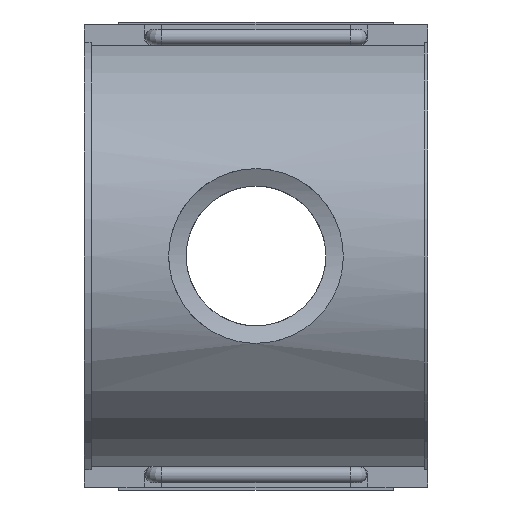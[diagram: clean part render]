
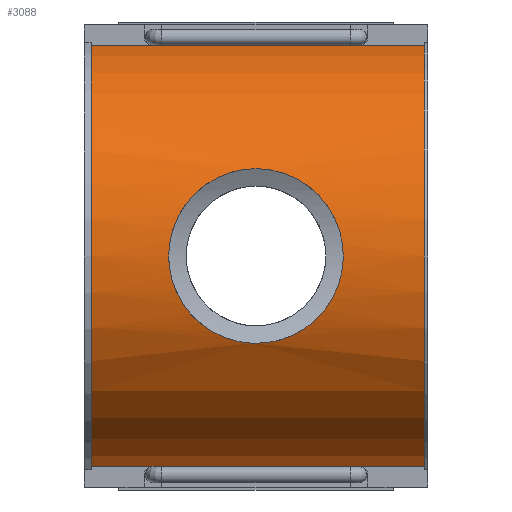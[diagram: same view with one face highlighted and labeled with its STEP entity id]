
A CAD part, front view. The second image highlights one B-rep face of the part: STEP entity #3088.
In plain terms, the highlighted cylindrical face has radius 73.858 mm (diameter 147.716 mm), a partial arc.
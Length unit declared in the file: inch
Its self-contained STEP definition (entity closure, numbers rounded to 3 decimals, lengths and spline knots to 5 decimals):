
#59=B_SPLINE_CURVE_WITH_KNOTS('',3,(#5292,#5293,#5294,#5295,#5296,#5297,
#5298,#5299,#5300,#5301,#5302,#5303,#5304,#5305,#5306,#5307,#5308,#5309,
#5310,#5311,#5312,#5313,#5314,#5315,#5316,#5317,#5318,#5319,#5320,#5321,
#5322,#5323,#5324,#5325,#5326,#5327,#5328,#5329,#5330,#5331,#5332,#5333,
#5334,#5335,#5336,#5337,#5338,#5339,#5340,#5341),.UNSPECIFIED.,.F.,.F.,
(4,2,2,2,2,2,2,2,2,2,2,2,2,2,2,2,2,2,2,2,2,2,2,2,4),(0.,0.57358,
1.14716,1.72074,2.29431,2.86727,3.44022,
4.01318,4.58613,5.15908,5.73204,6.30499,
6.87794,7.45152,8.0251,8.59868,9.17226,
9.74584,10.31942,10.89299,11.46657,12.03953,
12.61248,13.18543,13.75839),.UNSPECIFIED.);
#60=B_SPLINE_CURVE_WITH_KNOTS('',3,(#5342,#5343,#5344,#5345,#5346,#5347,
#5348,#5349,#5350,#5351,#5352,#5353,#5354,#5355,#5356,#5357,#5358,#5359),
 .UNSPECIFIED.,.F.,.F.,(4,2,2,2,2,2,2,2,4),(13.75839,14.33134,
14.9043,15.47725,16.0502,16.62378,17.19736,
17.77094,18.34452),.UNSPECIFIED.);
#78=FACE_BOUND('',#558,.T.);
#236=CYLINDRICAL_SURFACE('',#3372,2.9078);
#366=FACE_OUTER_BOUND('',#557,.T.);
#557=EDGE_LOOP('',(#2694,#2695,#2696,#2697,#2698,#2699,#2700,#2701));
#558=EDGE_LOOP('',(#2702,#2703));
#805=LINE('',#5453,#1108);
#806=LINE('',#5455,#1109);
#822=LINE('',#5491,#1125);
#823=LINE('',#5494,#1126);
#824=LINE('',#5496,#1127);
#825=LINE('',#5497,#1128);
#1108=VECTOR('',#4047,0.3937);
#1109=VECTOR('',#4050,0.3937);
#1125=VECTOR('',#4082,0.3937);
#1126=VECTOR('',#4085,0.3937);
#1127=VECTOR('',#4086,0.3937);
#1128=VECTOR('',#4087,0.3937);
#1290=CIRCLE('',#3341,2.9078);
#1293=CIRCLE('',#3346,2.9078);
#1497=VERTEX_POINT('',#5289);
#1498=VERTEX_POINT('',#5291);
#1503=VERTEX_POINT('',#5370);
#1504=VERTEX_POINT('',#5371);
#1509=VERTEX_POINT('',#5385);
#1510=VERTEX_POINT('',#5386);
#1519=VERTEX_POINT('',#5409);
#1528=VERTEX_POINT('',#5433);
#1545=VERTEX_POINT('',#5493);
#1546=VERTEX_POINT('',#5495);
#1878=EDGE_CURVE('',#1498,#1497,#59,.T.);
#1879=EDGE_CURVE('',#1497,#1498,#60,.T.);
#1884=EDGE_CURVE('',#1503,#1504,#1290,.T.);
#1891=EDGE_CURVE('',#1509,#1510,#1293,.T.);
#1925=EDGE_CURVE('',#1528,#1510,#805,.T.);
#1926=EDGE_CURVE('',#1503,#1519,#806,.T.);
#1944=EDGE_CURVE('',#1519,#1528,#822,.T.);
#1945=EDGE_CURVE('',#1504,#1545,#823,.T.);
#1946=EDGE_CURVE('',#1545,#1546,#824,.T.);
#1947=EDGE_CURVE('',#1546,#1509,#825,.T.);
#2694=ORIENTED_EDGE('',*,*,#1884,.T.);
#2695=ORIENTED_EDGE('',*,*,#1945,.T.);
#2696=ORIENTED_EDGE('',*,*,#1946,.T.);
#2697=ORIENTED_EDGE('',*,*,#1947,.T.);
#2698=ORIENTED_EDGE('',*,*,#1891,.T.);
#2699=ORIENTED_EDGE('',*,*,#1925,.F.);
#2700=ORIENTED_EDGE('',*,*,#1944,.F.);
#2701=ORIENTED_EDGE('',*,*,#1926,.F.);
#2702=ORIENTED_EDGE('',*,*,#1878,.T.);
#2703=ORIENTED_EDGE('',*,*,#1879,.T.);
#3088=ADVANCED_FACE('',(#366,#78),#236,.T.);
#3341=AXIS2_PLACEMENT_3D('',#5372,#3972,#3973);
#3346=AXIS2_PLACEMENT_3D('',#5387,#3986,#3987);
#3372=AXIS2_PLACEMENT_3D('',#5492,#4083,#4084);
#3972=DIRECTION('center_axis',(-1.,0.,0.));
#3973=DIRECTION('ref_axis',(0.,-0.205,0.979));
#3986=DIRECTION('center_axis',(1.,0.,0.));
#3987=DIRECTION('ref_axis',(0.,-0.205,0.979));
#4047=DIRECTION('',(-1.,0.,0.));
#4050=DIRECTION('',(-1.,0.,0.));
#4082=DIRECTION('',(-1.,0.,0.));
#4083=DIRECTION('center_axis',(-1.,0.,0.));
#4084=DIRECTION('ref_axis',(0.,-0.205,0.979));
#4085=DIRECTION('',(-1.,0.,0.));
#4086=DIRECTION('',(-1.,0.,0.));
#4087=DIRECTION('',(-1.,0.,0.));
#5289=CARTESIAN_POINT('',(-3.50807,-2.9078,0.));
#5291=CARTESIAN_POINT('',(-2.325,-2.65624,1.18307));
#5292=CARTESIAN_POINT('Ctrl Pts',(-2.325,-2.65624,1.18307));
#5293=CARTESIAN_POINT('Ctrl Pts',(-2.24973,-2.65624,1.18307));
#5294=CARTESIAN_POINT('Ctrl Pts',(-2.17221,-2.65953,1.17577));
#5295=CARTESIAN_POINT('Ctrl Pts',(-2.01863,-2.67276,1.14539));
#5296=CARTESIAN_POINT('Ctrl Pts',(-1.94255,-2.68267,1.12232));
#5297=CARTESIAN_POINT('Ctrl Pts',(-1.79713,-2.70724,1.0617));
#5298=CARTESIAN_POINT('Ctrl Pts',(-1.72764,-2.72187,1.02411));
#5299=CARTESIAN_POINT('Ctrl Pts',(-1.59933,-2.75288,0.93758));
#5300=CARTESIAN_POINT('Ctrl Pts',(-1.54051,-2.76922,0.88862));
#5301=CARTESIAN_POINT('Ctrl Pts',(-1.43643,-2.80048,0.78455));
#5302=CARTESIAN_POINT('Ctrl Pts',(-1.38749,-2.81654,0.72575));
#5303=CARTESIAN_POINT('Ctrl Pts',(-1.30093,-2.84652,0.59743));
#5304=CARTESIAN_POINT('Ctrl Pts',(-1.26331,-2.86042,0.5279));
#5305=CARTESIAN_POINT('Ctrl Pts',(-1.20266,-2.88348,0.38239));
#5306=CARTESIAN_POINT('Ctrl Pts',(-1.17958,-2.89265,0.30628));
#5307=CARTESIAN_POINT('Ctrl Pts',(-1.14921,-2.90481,0.15268));
#5308=CARTESIAN_POINT('Ctrl Pts',(-1.14193,-2.9078,0.07519));
#5309=CARTESIAN_POINT('Ctrl Pts',(-1.14193,-2.9078,-0.07519));
#5310=CARTESIAN_POINT('Ctrl Pts',(-1.14921,-2.90481,-0.15268));
#5311=CARTESIAN_POINT('Ctrl Pts',(-1.17958,-2.89265,-0.30628));
#5312=CARTESIAN_POINT('Ctrl Pts',(-1.20266,-2.88348,-0.38239));
#5313=CARTESIAN_POINT('Ctrl Pts',(-1.26331,-2.86042,-0.5279));
#5314=CARTESIAN_POINT('Ctrl Pts',(-1.30093,-2.84652,-0.59743));
#5315=CARTESIAN_POINT('Ctrl Pts',(-1.38749,-2.81654,-0.72575));
#5316=CARTESIAN_POINT('Ctrl Pts',(-1.43643,-2.80048,-0.78455));
#5317=CARTESIAN_POINT('Ctrl Pts',(-1.54051,-2.76922,-0.88862));
#5318=CARTESIAN_POINT('Ctrl Pts',(-1.59933,-2.75288,-0.93758));
#5319=CARTESIAN_POINT('Ctrl Pts',(-1.72764,-2.72187,-1.02411));
#5320=CARTESIAN_POINT('Ctrl Pts',(-1.79713,-2.70724,-1.0617));
#5321=CARTESIAN_POINT('Ctrl Pts',(-1.94255,-2.68267,-1.12232));
#5322=CARTESIAN_POINT('Ctrl Pts',(-2.01863,-2.67276,-1.14539));
#5323=CARTESIAN_POINT('Ctrl Pts',(-2.17221,-2.65953,-1.17577));
#5324=CARTESIAN_POINT('Ctrl Pts',(-2.24973,-2.65624,-1.18307));
#5325=CARTESIAN_POINT('Ctrl Pts',(-2.40027,-2.65624,-1.18307));
#5326=CARTESIAN_POINT('Ctrl Pts',(-2.47779,-2.65953,-1.17577));
#5327=CARTESIAN_POINT('Ctrl Pts',(-2.63137,-2.67276,-1.14539));
#5328=CARTESIAN_POINT('Ctrl Pts',(-2.70745,-2.68267,-1.12232));
#5329=CARTESIAN_POINT('Ctrl Pts',(-2.85287,-2.70724,-1.0617));
#5330=CARTESIAN_POINT('Ctrl Pts',(-2.92236,-2.72187,-1.02411));
#5331=CARTESIAN_POINT('Ctrl Pts',(-3.05067,-2.75288,-0.93758));
#5332=CARTESIAN_POINT('Ctrl Pts',(-3.10949,-2.76922,-0.88862));
#5333=CARTESIAN_POINT('Ctrl Pts',(-3.21357,-2.80048,-0.78455));
#5334=CARTESIAN_POINT('Ctrl Pts',(-3.26251,-2.81654,-0.72575));
#5335=CARTESIAN_POINT('Ctrl Pts',(-3.34907,-2.84652,-0.59743));
#5336=CARTESIAN_POINT('Ctrl Pts',(-3.38669,-2.86042,-0.5279));
#5337=CARTESIAN_POINT('Ctrl Pts',(-3.44734,-2.88348,-0.38239));
#5338=CARTESIAN_POINT('Ctrl Pts',(-3.47042,-2.89265,-0.30628));
#5339=CARTESIAN_POINT('Ctrl Pts',(-3.50079,-2.90481,-0.15268));
#5340=CARTESIAN_POINT('Ctrl Pts',(-3.50807,-2.9078,-0.07519));
#5341=CARTESIAN_POINT('Ctrl Pts',(-3.50807,-2.9078,0.));
#5342=CARTESIAN_POINT('Ctrl Pts',(-3.50807,-2.9078,0.));
#5343=CARTESIAN_POINT('Ctrl Pts',(-3.50807,-2.9078,0.07519));
#5344=CARTESIAN_POINT('Ctrl Pts',(-3.50079,-2.90481,0.15268));
#5345=CARTESIAN_POINT('Ctrl Pts',(-3.47042,-2.89265,0.30628));
#5346=CARTESIAN_POINT('Ctrl Pts',(-3.44734,-2.88348,0.38239));
#5347=CARTESIAN_POINT('Ctrl Pts',(-3.38669,-2.86042,0.5279));
#5348=CARTESIAN_POINT('Ctrl Pts',(-3.34907,-2.84652,0.59743));
#5349=CARTESIAN_POINT('Ctrl Pts',(-3.26251,-2.81654,0.72575));
#5350=CARTESIAN_POINT('Ctrl Pts',(-3.21357,-2.80048,0.78455));
#5351=CARTESIAN_POINT('Ctrl Pts',(-3.10949,-2.76922,0.88862));
#5352=CARTESIAN_POINT('Ctrl Pts',(-3.05067,-2.75288,0.93758));
#5353=CARTESIAN_POINT('Ctrl Pts',(-2.92236,-2.72187,1.02411));
#5354=CARTESIAN_POINT('Ctrl Pts',(-2.85287,-2.70724,1.0617));
#5355=CARTESIAN_POINT('Ctrl Pts',(-2.70745,-2.68267,1.12232));
#5356=CARTESIAN_POINT('Ctrl Pts',(-2.63137,-2.67276,1.14539));
#5357=CARTESIAN_POINT('Ctrl Pts',(-2.47779,-2.65953,1.17577));
#5358=CARTESIAN_POINT('Ctrl Pts',(-2.40027,-2.65624,1.18307));
#5359=CARTESIAN_POINT('Ctrl Pts',(-2.325,-2.65624,1.18307));
#5370=CARTESIAN_POINT('',(-0.0465,-0.59695,-2.84586));
#5371=CARTESIAN_POINT('',(-0.0465,-0.59695,2.84586));
#5372=CARTESIAN_POINT('Origin',(-0.0465,0.,0.));
#5385=CARTESIAN_POINT('',(-4.557,-0.59695,2.84586));
#5386=CARTESIAN_POINT('',(-4.557,-0.59695,-2.84586));
#5387=CARTESIAN_POINT('Origin',(-4.557,0.,0.));
#5409=CARTESIAN_POINT('',(-0.93,-0.59695,-2.84586));
#5433=CARTESIAN_POINT('',(-3.72,-0.59695,-2.84586));
#5453=CARTESIAN_POINT('',(0.,-0.59695,-2.84586));
#5455=CARTESIAN_POINT('',(0.,-0.59695,-2.84586));
#5491=CARTESIAN_POINT('',(0.,-0.59695,-2.84586));
#5492=CARTESIAN_POINT('Origin',(0.,0.,0.));
#5493=CARTESIAN_POINT('',(-0.93,-0.59695,2.84586));
#5494=CARTESIAN_POINT('',(0.,-0.59695,2.84586));
#5495=CARTESIAN_POINT('',(-3.72,-0.59695,2.84586));
#5496=CARTESIAN_POINT('',(0.,-0.59695,2.84586));
#5497=CARTESIAN_POINT('',(0.,-0.59695,2.84586));
